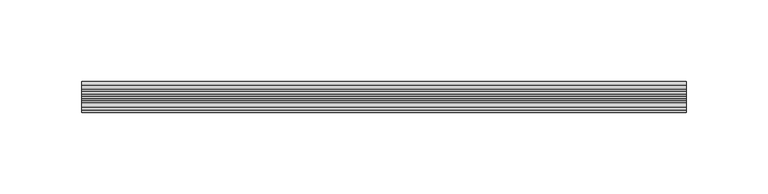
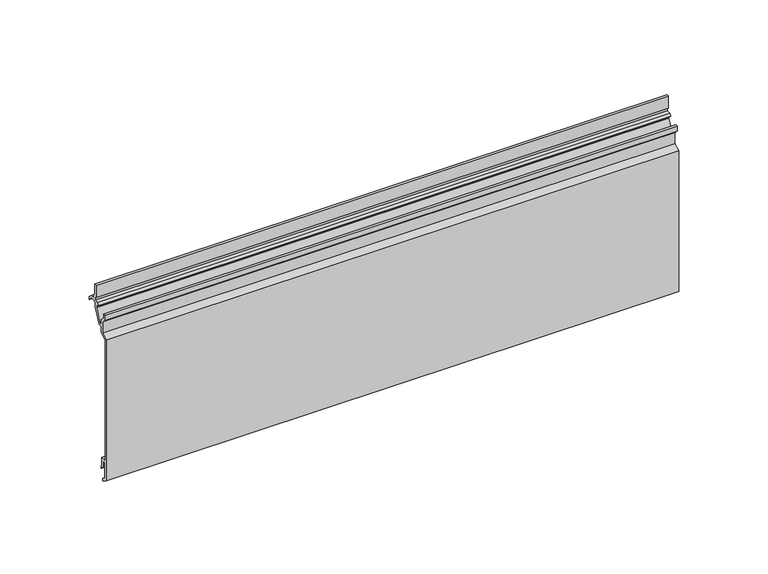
"""IFC4 building model written with IfcOpenShell, lengths in millimetres: plate geometry, FastPlank_P44V-V-Notch-4″-Plank-Horizontal : P44V-V-Notch-4″-Plank-Horizontal."""

from ifc_helpers import new_model, si_unit, frame, origin, place, context, project, spatial, polyline, outline, extrude, source, transform, mapped, element, save


def plate_624bdc6f(model_context):
    return source(origin(), model_context, "Body", "SweptSolid", [
        extrude(outline(polyline([(-18.8745946, 2.3957023), (-18.8745946, 98.7040846), (-14.7246029, 101.1000834), (-14.7246029, 108.6147973), (-17.3745976, 111.264792), (-17.3745976, 114.5726601), (-15.8746006, 114.5726601), (-15.8746006, 111.8861111), (-13.2246059, 109.2361164), (-13.2246059, 106.0486482), (-11.708109, 106.0486482), (-8.0338609, 114.2522203), (-8.0338609, 116.4558186), (-9.7191932, 116.4558186), (-10.3184198, 117.2227937), (-8.8232117, 118.3909783), (-6.2821578, 118.3909783), (-6.2821578, 120.8578751), (-7.5321553, 120.8578751), (-7.5321553, 129.1909904), (-6.0321583, 129.1909904), (-6.0321583, 122.3427309), (-4.7821608, 121.2437723), (-4.7821608, 118.9150861), (-2.1334241, 118.9150861), (0.0, 117.0394467), (0.0, 114.9213563), (-2.6937325, 117.6150887), (-5.0811989, 117.6150887), (-6.5338639, 116.7763922), (-6.5338639, 113.9609184), (-10.7243127, 104.5739676), (-13.2246059, 104.5739676), (-13.2246059, 100.4649994), (-17.5745972, 97.9535307), (-17.5745972, 15.4863039), (-14.0246043, 15.4863039), (-14.0246043, 10.5877112), (-13.3162936, 9.8794005), (-13.3162936, 7.7608499), (-15.5246013, 9.9691576), (-15.5246013, 13.9827581), (-17.3745976, 13.9827581), (-17.3745976, 3.2617795), (-14.7246029, 1.7319938), (-14.7246029, 0.0), (-18.8745946, 2.3957023)])), frame((-184.7615925, 0.0, 0.0), z_axis=(1.0, 0.0, 0.0), x_axis=(0.0, 1.0, 0.0)), (0.0, 0.0, 1.0), 369.5231851),
    ])


if __name__ == "__main__":
    model = new_model("IFC4")
    model_context = context("Model", 3, world=origin())
    ifc_project = project(units=[si_unit("LENGTHUNIT", "METRE", prefix="MILLI")], contexts=[model_context])
    site = spatial("IfcSite", under=ifc_project)
    building = spatial("IfcBuilding", under=site)
    placement = place(None, origin())
    plate_shape = plate_624bdc6f(model_context)
    element("IfcPlate", 1, ObjectType="FastPlank_P44V-V-Notch-4″-Plank-Horizontal : P44V-V-Notch-4″-Plank-Horizontal", at=placement, inside=building, context=model_context, shape_type="MappedRepresentation", body=[
        mapped(plate_shape, transform((0.0, 0.0, 0.0), x_axis=(1.0, 0.0, 0.0), y_axis=(0.0, 1.0, 0.0), z_axis=(0.0, 0.0, 1.0))),
    ])
    save(model, "model.ifc")
